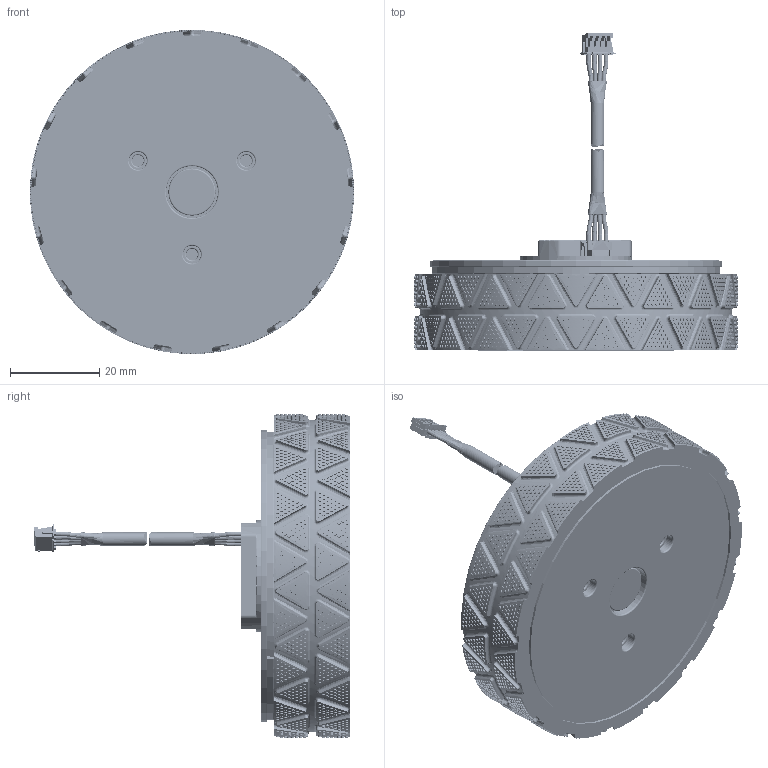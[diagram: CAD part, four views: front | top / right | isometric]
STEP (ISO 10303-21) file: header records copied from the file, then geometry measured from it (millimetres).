
FILE_DESCRIPTION (( 'STEP AP214' ), '1' );
FILE_NAME ('CP.ZM.000009 M0603C_211轮毂电机 外发客户模型.STEP', '2023-11-05T06:55:23', ( '' ), ( '' ), 'SwSTEP 2.0', 'SolidWorks 2018', '' );
FILE_SCHEMA (( 'AUTOMOTIVE_DESIGN' ));
Length unit declared in the file: millimetre
Products named in the file (1): CP.ZM.000009 M0603C_211轮毂电机 外发客户模型
Bounding box: 72.6 x 70.95 x 72.6 mm (x, y, z)
Surface area: 18780.7 mm2 (no closed solid volume)
Topology: 0 solids, 59 shells, 8318 faces, 18543 edges, 12135 vertices
Faces by surface type: bspline 5712, cylinder 2246, plane 264, torus 96
Entity records: 625849 total; most frequent: CARTESIAN_POINT 399797, ORIENTED_EDGE 36508, EDGE_CURVE 18543, B_SPLINE_CURVE_WITH_KNOTS 16455, VERTEX_POINT 12135, EDGE_LOOP 10285, UNCERTAINTY_MEASURE_WITH_UNIT 8320, FILL_AREA_STYLE_COLOUR 8319
